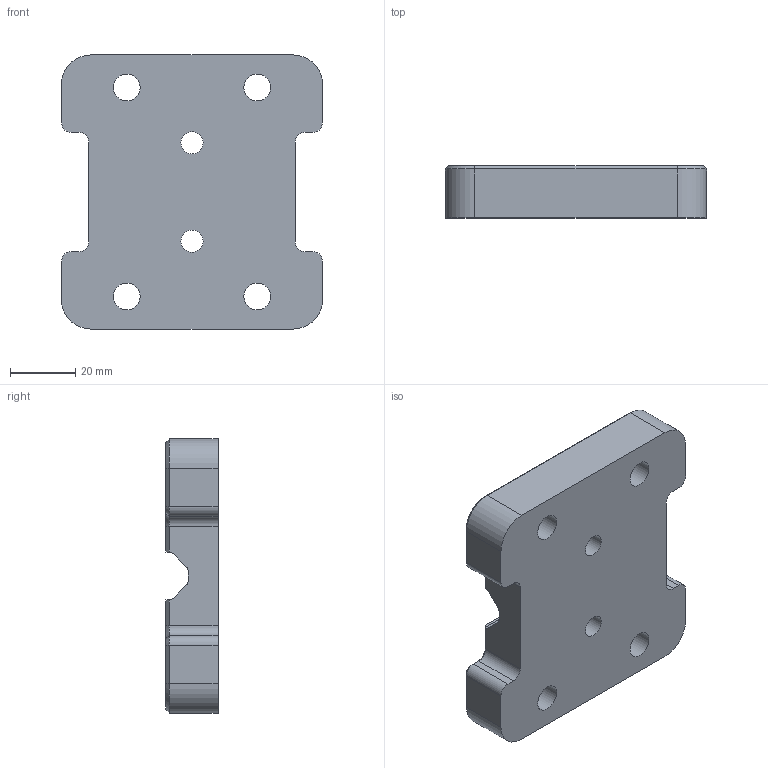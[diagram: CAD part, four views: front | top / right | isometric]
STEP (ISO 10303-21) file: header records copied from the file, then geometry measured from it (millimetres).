
FILE_DESCRIPTION(/* description */ (''),/* implementation_level */ '2;1');
FILE_NAME(/* name */ 'Base Plate.step',/* time_stamp */ '2025-12-04T16:02:15+01:00',/* author */ (''),/* organization */ (''),/* preprocessor_version */ 'ST-DEVELOPER v20.1',/* originating_system */ 'Autodesk Translation Framework v14.21.0.0',/* authorisation */ '');
FILE_SCHEMA (('AUTOMOTIVE_DESIGN { 1 0 10303 214 3 1 1 }'));
Length unit declared in the file: millimetre
Products named in the file (1): Base Plate
Bounding box: 80 x 16 x 84 mm (x, y, z)
Volume: 83454.7 mm3; surface area: 19984.7 mm2
Topology: 1 solids, 1 shells, 80 faces, 194 edges, 120 vertices
Faces by surface type: plane 38, cylinder 26, cone 16
Full cylindrical faces by diameter (mm): 6.779 x2, 8.2 x4, 14 x4
Entity records: 2390 total; most frequent: DIRECTION 428, CARTESIAN_POINT 395, ORIENTED_EDGE 388, EDGE_CURVE 194, AXIS2_PLACEMENT_3D 153, LINE 122, VECTOR 122, VERTEX_POINT 120
